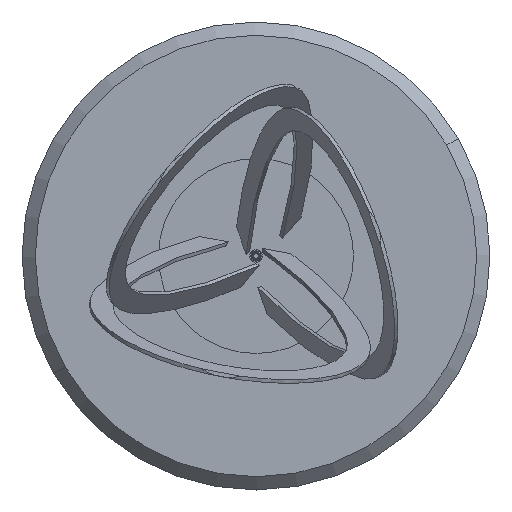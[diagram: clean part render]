
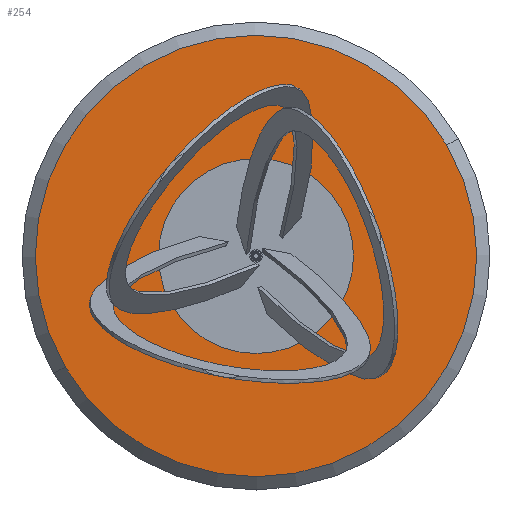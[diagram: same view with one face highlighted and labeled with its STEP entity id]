
A CAD part, front view. The second image highlights one B-rep face of the part: STEP entity #254.
In plain terms, the highlighted planar face has unit normal (0, -1, 0).
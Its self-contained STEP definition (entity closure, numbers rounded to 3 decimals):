
#22 = CARTESIAN_POINT ( 'NONE',  ( 50., 0., -28.868 ) ) ;
#43 = ORIENTED_EDGE ( 'NONE', *, *, #3741, .T. ) ;
#70 = EDGE_CURVE ( 'NONE', #890, #4009, #2490, .T. ) ;
#128 = DIRECTION ( 'NONE',  ( 0., 0., -1. ) ) ;
#159 = AXIS2_PLACEMENT_3D ( 'NONE', #3501, #867, #3156 ) ;
#236 = AXIS2_PLACEMENT_3D ( 'NONE', #291, #3935, #3898 ) ;
#254 = ADVANCED_FACE ( 'NONE', ( #3361, #3080, #4029, #1074, #1096 ), #2393, .T. ) ;
#291 = CARTESIAN_POINT ( 'NONE',  ( -50., 0., -28.868 ) ) ;
#294 = VERTEX_POINT ( 'NONE', #1365 ) ;
#305 = CARTESIAN_POINT ( 'NONE',  ( 0., 0., -283. ) ) ;
#313 = ORIENTED_EDGE ( 'NONE', *, *, #1097, .F. ) ;
#394 = VERTEX_POINT ( 'NONE', #3855 ) ;
#422 = DIRECTION ( 'NONE',  ( 0., -1., 0. ) ) ;
#523 = EDGE_CURVE ( 'NONE', #394, #2150, #2290, .T. ) ;
#572 = CARTESIAN_POINT ( 'NONE',  ( 50., 0., -32.268 ) ) ;
#582 = DIRECTION ( 'NONE',  ( 0., 0., -1. ) ) ;
#608 = EDGE_LOOP ( 'NONE', ( #2182, #739 ) ) ;
#621 = EDGE_LOOP ( 'NONE', ( #3634, #313 ) ) ;
#663 = CIRCLE ( 'NONE', #3331, 3.4 ) ;
#707 = AXIS2_PLACEMENT_3D ( 'NONE', #4005, #3983, #128 ) ;
#722 = AXIS2_PLACEMENT_3D ( 'NONE', #22, #3573, #3555 ) ;
#739 = ORIENTED_EDGE ( 'NONE', *, *, #523, .F. ) ;
#867 = DIRECTION ( 'NONE',  ( 0., -1., 0. ) ) ;
#878 = AXIS2_PLACEMENT_3D ( 'NONE', #2231, #1947, #582 ) ;
#890 = VERTEX_POINT ( 'NONE', #572 ) ;
#910 = CARTESIAN_POINT ( 'NONE',  ( -50., 0., -32.268 ) ) ;
#941 = CARTESIAN_POINT ( 'NONE',  ( 0., 0., 54.335 ) ) ;
#973 = CARTESIAN_POINT ( 'NONE',  ( 0., 0., 57.735 ) ) ;
#977 = EDGE_LOOP ( 'NONE', ( #1897, #43 ) ) ;
#1009 = CIRCLE ( 'NONE', #878, 3.4 ) ;
#1074 = FACE_BOUND ( 'NONE', #2275, .T. ) ;
#1096 = FACE_OUTER_BOUND ( 'NONE', #977, .T. ) ;
#1097 = EDGE_CURVE ( 'NONE', #4009, #890, #3880, .T. ) ;
#1124 = CARTESIAN_POINT ( 'NONE',  ( 0., 0., 61.135 ) ) ;
#1139 = VERTEX_POINT ( 'NONE', #305 ) ;
#1157 = VERTEX_POINT ( 'NONE', #3350 ) ;
#1305 = DIRECTION ( 'NONE',  ( 0., 0., -1. ) ) ;
#1365 = CARTESIAN_POINT ( 'NONE',  ( 0., 0., 3.4 ) ) ;
#1536 = CARTESIAN_POINT ( 'NONE',  ( 0., 0., 0. ) ) ;
#1735 = CIRCLE ( 'NONE', #707, 283. ) ;
#1770 = CARTESIAN_POINT ( 'NONE',  ( 0., 0., 283. ) ) ;
#1897 = ORIENTED_EDGE ( 'NONE', *, *, #3451, .T. ) ;
#1947 = DIRECTION ( 'NONE',  ( 0., -1., 0. ) ) ;
#2083 = EDGE_CURVE ( 'NONE', #2646, #2751, #2172, .T. ) ;
#2138 = EDGE_CURVE ( 'NONE', #2150, #394, #1009, .T. ) ;
#2150 = VERTEX_POINT ( 'NONE', #910 ) ;
#2171 = EDGE_CURVE ( 'NONE', #1157, #294, #663, .T. ) ;
#2172 = CIRCLE ( 'NONE', #2717, 3.4 ) ;
#2182 = ORIENTED_EDGE ( 'NONE', *, *, #2138, .F. ) ;
#2207 = DIRECTION ( 'NONE',  ( 0., -1., 0. ) ) ;
#2231 = CARTESIAN_POINT ( 'NONE',  ( -50., 0., -28.868 ) ) ;
#2254 = AXIS2_PLACEMENT_3D ( 'NONE', #1536, #2850, #3837 ) ;
#2258 = ORIENTED_EDGE ( 'NONE', *, *, #3345, .F. ) ;
#2275 = EDGE_LOOP ( 'NONE', ( #4104, #2535 ) ) ;
#2290 = CIRCLE ( 'NONE', #236, 3.4 ) ;
#2393 = PLANE ( 'NONE',  #2774 ) ;
#2394 = CIRCLE ( 'NONE', #2254, 3.4 ) ;
#2490 = CIRCLE ( 'NONE', #3039, 3.4 ) ;
#2527 = DIRECTION ( 'NONE',  ( 0., 0., -1. ) ) ;
#2535 = ORIENTED_EDGE ( 'NONE', *, *, #4082, .F. ) ;
#2616 = AXIS2_PLACEMENT_3D ( 'NONE', #2790, #2207, #3922 ) ;
#2625 = CARTESIAN_POINT ( 'NONE',  ( 50., 0., -28.868 ) ) ;
#2646 = VERTEX_POINT ( 'NONE', #941 ) ;
#2689 = CIRCLE ( 'NONE', #2616, 283. ) ;
#2717 = AXIS2_PLACEMENT_3D ( 'NONE', #973, #4210, #2527 ) ;
#2751 = VERTEX_POINT ( 'NONE', #1124 ) ;
#2774 = AXIS2_PLACEMENT_3D ( 'NONE', #3709, #422, #3753 ) ;
#2790 = CARTESIAN_POINT ( 'NONE',  ( 0., 0., 0. ) ) ;
#2850 = DIRECTION ( 'NONE',  ( 0., -1., 0. ) ) ;
#3039 = AXIS2_PLACEMENT_3D ( 'NONE', #2625, #3919, #3301 ) ;
#3080 = FACE_BOUND ( 'NONE', #3840, .T. ) ;
#3156 = DIRECTION ( 'NONE',  ( 0., 0., -1. ) ) ;
#3301 = DIRECTION ( 'NONE',  ( 0., 0., -1. ) ) ;
#3308 = CIRCLE ( 'NONE', #159, 3.4 ) ;
#3331 = AXIS2_PLACEMENT_3D ( 'NONE', #3547, #3885, #1305 ) ;
#3345 = EDGE_CURVE ( 'NONE', #2751, #2646, #3308, .T. ) ;
#3350 = CARTESIAN_POINT ( 'NONE',  ( 0., 0., -3.4 ) ) ;
#3361 = FACE_BOUND ( 'NONE', #608, .T. ) ;
#3451 = EDGE_CURVE ( 'NONE', #4125, #1139, #2689, .T. ) ;
#3501 = CARTESIAN_POINT ( 'NONE',  ( 0., 0., 57.735 ) ) ;
#3516 = CARTESIAN_POINT ( 'NONE',  ( 50., 0., -25.468 ) ) ;
#3547 = CARTESIAN_POINT ( 'NONE',  ( 0., 0., 0. ) ) ;
#3555 = DIRECTION ( 'NONE',  ( 0., 0., -1. ) ) ;
#3563 = ORIENTED_EDGE ( 'NONE', *, *, #2083, .F. ) ;
#3573 = DIRECTION ( 'NONE',  ( 0., -1., 0. ) ) ;
#3634 = ORIENTED_EDGE ( 'NONE', *, *, #70, .F. ) ;
#3709 = CARTESIAN_POINT ( 'NONE',  ( 0., 0., 0. ) ) ;
#3741 = EDGE_CURVE ( 'NONE', #1139, #4125, #1735, .T. ) ;
#3753 = DIRECTION ( 'NONE',  ( 0., 0., -1. ) ) ;
#3837 = DIRECTION ( 'NONE',  ( 0., 0., -1. ) ) ;
#3840 = EDGE_LOOP ( 'NONE', ( #3563, #2258 ) ) ;
#3855 = CARTESIAN_POINT ( 'NONE',  ( -50., 0., -25.468 ) ) ;
#3880 = CIRCLE ( 'NONE', #722, 3.4 ) ;
#3885 = DIRECTION ( 'NONE',  ( 0., -1., 0. ) ) ;
#3898 = DIRECTION ( 'NONE',  ( 0., 0., -1. ) ) ;
#3919 = DIRECTION ( 'NONE',  ( 0., -1., 0. ) ) ;
#3922 = DIRECTION ( 'NONE',  ( 0., 0., -1. ) ) ;
#3935 = DIRECTION ( 'NONE',  ( 0., -1., 0. ) ) ;
#3983 = DIRECTION ( 'NONE',  ( 0., -1., 0. ) ) ;
#4005 = CARTESIAN_POINT ( 'NONE',  ( 0., 0., 0. ) ) ;
#4009 = VERTEX_POINT ( 'NONE', #3516 ) ;
#4029 = FACE_BOUND ( 'NONE', #621, .T. ) ;
#4082 = EDGE_CURVE ( 'NONE', #294, #1157, #2394, .T. ) ;
#4104 = ORIENTED_EDGE ( 'NONE', *, *, #2171, .F. ) ;
#4125 = VERTEX_POINT ( 'NONE', #1770 ) ;
#4210 = DIRECTION ( 'NONE',  ( 0., -1., 0. ) ) ;
